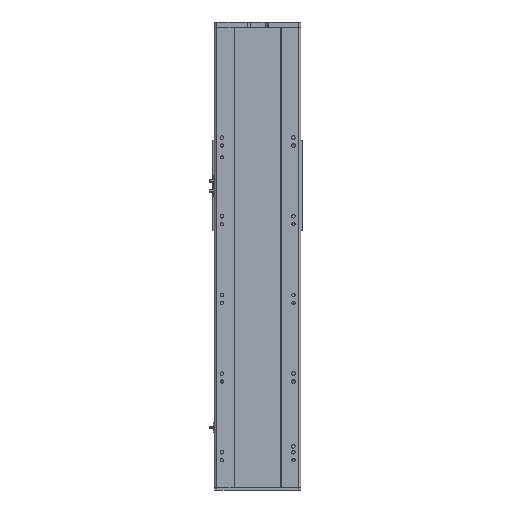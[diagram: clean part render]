
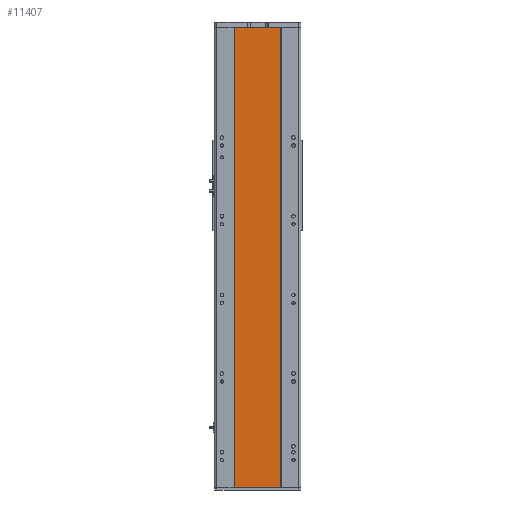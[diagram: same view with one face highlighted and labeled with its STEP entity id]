
A CAD part, front view. The second image highlights one B-rep face of the part: STEP entity #11407.
In plain terms, the highlighted planar face has unit normal (0, -1, 0).
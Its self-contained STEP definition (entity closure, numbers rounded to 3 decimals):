
#578 = DIRECTION ( 'NONE',  ( 1., 0., 0. ) ) ;
#582 = VECTOR ( 'NONE', #33124, 1000. ) ;
#1099 = EDGE_CURVE ( 'NONE', #12858, #13478, #33916, .T. ) ;
#1769 = EDGE_CURVE ( 'NONE', #13478, #15269, #10186, .T. ) ;
#2955 = PLANE ( 'NONE',  #4401 ) ;
#3202 = DIRECTION ( 'NONE',  ( 0., 1., 0. ) ) ;
#3802 = CARTESIAN_POINT ( 'NONE',  ( -59., 1., 585.5 ) ) ;
#4401 = AXIS2_PLACEMENT_3D ( 'NONE', #25865, #3202, #11629 ) ;
#5054 = CARTESIAN_POINT ( 'NONE',  ( -59., 1., -585.5 ) ) ;
#5790 = VECTOR ( 'NONE', #6660, 1000. ) ;
#6660 = DIRECTION ( 'NONE',  ( 0., 0., -1. ) ) ;
#7540 = CARTESIAN_POINT ( 'NONE',  ( 59., 1., -585.5 ) ) ;
#8898 = CARTESIAN_POINT ( 'NONE',  ( -59., 1., 585.5 ) ) ;
#9086 = CARTESIAN_POINT ( 'NONE',  ( -59., 1., -585.5 ) ) ;
#10013 = EDGE_LOOP ( 'NONE', ( #34210, #18580, #13903, #32164 ) ) ;
#10186 = LINE ( 'NONE', #9086, #16006 ) ;
#11407 = ADVANCED_FACE ( 'NONE', ( #25344 ), #2955, .F. ) ;
#11629 = DIRECTION ( 'NONE',  ( -1., 0., 0. ) ) ;
#12858 = VERTEX_POINT ( 'NONE', #3802 ) ;
#13171 = CARTESIAN_POINT ( 'NONE',  ( 59., 1., 585.5 ) ) ;
#13478 = VERTEX_POINT ( 'NONE', #5054 ) ;
#13903 = ORIENTED_EDGE ( 'NONE', *, *, #26556, .F. ) ;
#14491 = DIRECTION ( 'NONE',  ( 1., 0., 0. ) ) ;
#15269 = VERTEX_POINT ( 'NONE', #7540 ) ;
#16006 = VECTOR ( 'NONE', #14491, 1000. ) ;
#17275 = EDGE_CURVE ( 'NONE', #36985, #15269, #20396, .T. ) ;
#18580 = ORIENTED_EDGE ( 'NONE', *, *, #17275, .F. ) ;
#19719 = VECTOR ( 'NONE', #578, 1000. ) ;
#20396 = LINE ( 'NONE', #13171, #582 ) ;
#21429 = CARTESIAN_POINT ( 'NONE',  ( 59., 1., 585.5 ) ) ;
#21482 = LINE ( 'NONE', #8898, #19719 ) ;
#23452 = CARTESIAN_POINT ( 'NONE',  ( -59., 1., 585.5 ) ) ;
#25344 = FACE_OUTER_BOUND ( 'NONE', #10013, .T. ) ;
#25865 = CARTESIAN_POINT ( 'NONE',  ( -59., 1., 585.5 ) ) ;
#26556 = EDGE_CURVE ( 'NONE', #12858, #36985, #21482, .T. ) ;
#32164 = ORIENTED_EDGE ( 'NONE', *, *, #1099, .T. ) ;
#33124 = DIRECTION ( 'NONE',  ( 0., 0., -1. ) ) ;
#33916 = LINE ( 'NONE', #23452, #5790 ) ;
#34210 = ORIENTED_EDGE ( 'NONE', *, *, #1769, .T. ) ;
#36985 = VERTEX_POINT ( 'NONE', #21429 ) ;
